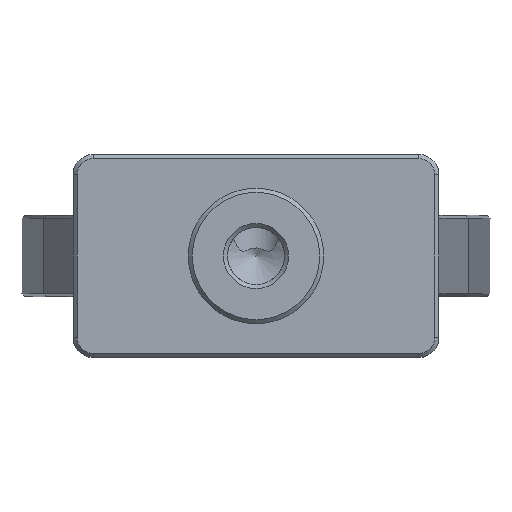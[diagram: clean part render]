
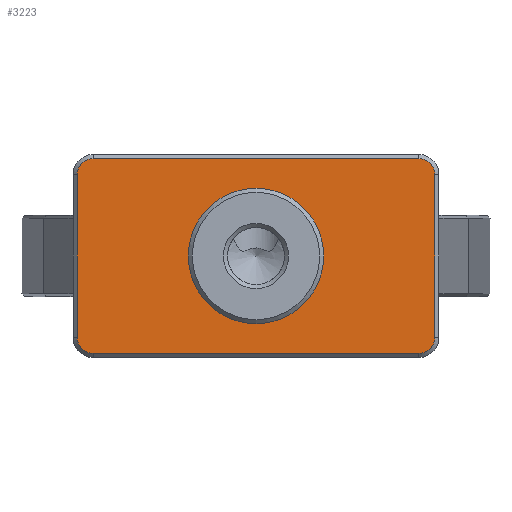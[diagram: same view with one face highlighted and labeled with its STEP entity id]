
A CAD part, front view. The second image highlights one B-rep face of the part: STEP entity #3223.
In plain terms, the highlighted planar face has unit normal (0, -1, 0).
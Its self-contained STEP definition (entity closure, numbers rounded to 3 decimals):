
#2833=FACE_BOUND('',#4142,.T.);
#2834=FACE_BOUND('',#4143,.T.);
#2995=CIRCLE('',#8897,1.2);
#2996=CIRCLE('',#8900,1.2);
#2998=CIRCLE('',#8903,5.);
#3005=CIRCLE('',#8924,1.2);
#3007=CIRCLE('',#8928,1.2);
#3223=ADVANCED_FACE('',(#2833,#2834),#3521,.T.);
#3521=PLANE('',#8929);
#4142=EDGE_LOOP('',(#6049));
#4143=EDGE_LOOP('',(#6050,#6051,#6052,#6053,#6054,#6055,#6056,#6057));
#4531=LINE('',#12228,#5097);
#4534=LINE('',#12236,#5100);
#4537=LINE('',#12250,#5103);
#4552=LINE('',#12300,#5118);
#5097=VECTOR('',#9764,1.);
#5100=VECTOR('',#9773,1.);
#5103=VECTOR('',#9788,1.);
#5118=VECTOR('',#9851,1.);
#6049=ORIENTED_EDGE('',*,*,#8068,.T.);
#6050=ORIENTED_EDGE('',*,*,#8070,.T.);
#6051=ORIENTED_EDGE('',*,*,#8093,.F.);
#6052=ORIENTED_EDGE('',*,*,#8094,.T.);
#6053=ORIENTED_EDGE('',*,*,#8088,.T.);
#6054=ORIENTED_EDGE('',*,*,#8060,.T.);
#6055=ORIENTED_EDGE('',*,*,#8062,.T.);
#6056=ORIENTED_EDGE('',*,*,#8064,.T.);
#6057=ORIENTED_EDGE('',*,*,#8066,.T.);
#7439=VERTEX_POINT('',#12224);
#7440=VERTEX_POINT('',#12227);
#7441=VERTEX_POINT('',#12231);
#7442=VERTEX_POINT('',#12235);
#7444=VERTEX_POINT('',#12240);
#7445=VERTEX_POINT('',#12245);
#7446=VERTEX_POINT('',#12248);
#7456=VERTEX_POINT('',#12290);
#7458=VERTEX_POINT('',#12299);
#8060=EDGE_CURVE('',#7439,#7440,#4531,.T.);
#8062=EDGE_CURVE('',#7440,#7441,#2995,.T.);
#8064=EDGE_CURVE('',#7441,#7442,#4534,.T.);
#8066=EDGE_CURVE('',#7442,#7444,#2996,.T.);
#8068=EDGE_CURVE('',#7445,#7445,#2998,.T.);
#8070=EDGE_CURVE('',#7444,#7446,#4537,.T.);
#8088=EDGE_CURVE('',#7456,#7439,#3005,.T.);
#8093=EDGE_CURVE('',#7458,#7446,#3007,.T.);
#8094=EDGE_CURVE('',#7458,#7456,#4552,.T.);
#8897=AXIS2_PLACEMENT_3D('',#12232,#9768,#9769);
#8900=AXIS2_PLACEMENT_3D('',#12241,#9777,#9778);
#8903=AXIS2_PLACEMENT_3D('',#12244,#9783,#9784);
#8924=AXIS2_PLACEMENT_3D('',#12289,#9838,#9839);
#8928=AXIS2_PLACEMENT_3D('',#12298,#9849,#9850);
#8929=AXIS2_PLACEMENT_3D('',#12301,#9852,#9853);
#9764=DIRECTION('',(0.,0.,1.));
#9768=DIRECTION('',(0.,-1.,0.));
#9769=DIRECTION('',(0.,0.,1.));
#9773=DIRECTION('',(-1.,0.,0.));
#9777=DIRECTION('',(0.,-1.,0.));
#9778=DIRECTION('',(0.,0.,1.));
#9783=DIRECTION('',(0.,1.,0.));
#9784=DIRECTION('',(0.,0.,1.));
#9788=DIRECTION('',(0.,0.,-1.));
#9838=DIRECTION('',(0.,-1.,0.));
#9839=DIRECTION('',(0.,0.,1.));
#9849=DIRECTION('',(0.,1.,0.));
#9850=DIRECTION('',(0.,0.,1.));
#9851=DIRECTION('',(1.,0.,0.));
#9852=DIRECTION('',(0.,-1.,0.));
#9853=DIRECTION('',(0.,0.,-1.));
#12224=CARTESIAN_POINT('',(13.2,-26.,-13.3));
#12227=CARTESIAN_POINT('',(13.2,-26.,-1.3));
#12228=CARTESIAN_POINT('',(13.2,-26.,0.2));
#12231=CARTESIAN_POINT('',(12.,-26.,-0.1));
#12232=CARTESIAN_POINT('',(12.,-26.,-1.3));
#12235=CARTESIAN_POINT('',(-12.,-26.,-0.1));
#12236=CARTESIAN_POINT('',(12.5,-26.,-0.1));
#12240=CARTESIAN_POINT('',(-13.2,-26.,-1.3));
#12241=CARTESIAN_POINT('',(-12.,-26.,-1.3));
#12244=CARTESIAN_POINT('',(0.,-26.,-7.3));
#12245=CARTESIAN_POINT('',(0.,-26.,-2.3));
#12248=CARTESIAN_POINT('',(-13.2,-26.,-13.3));
#12250=CARTESIAN_POINT('',(-13.2,-26.,0.2));
#12289=CARTESIAN_POINT('',(12.,-26.,-13.3));
#12290=CARTESIAN_POINT('',(12.,-26.,-14.5));
#12298=CARTESIAN_POINT('',(-12.,-26.,-13.3));
#12299=CARTESIAN_POINT('',(-12.,-26.,-14.5));
#12300=CARTESIAN_POINT('',(12.5,-26.,-14.5));
#12301=CARTESIAN_POINT('',(12.5,-26.,0.2));
